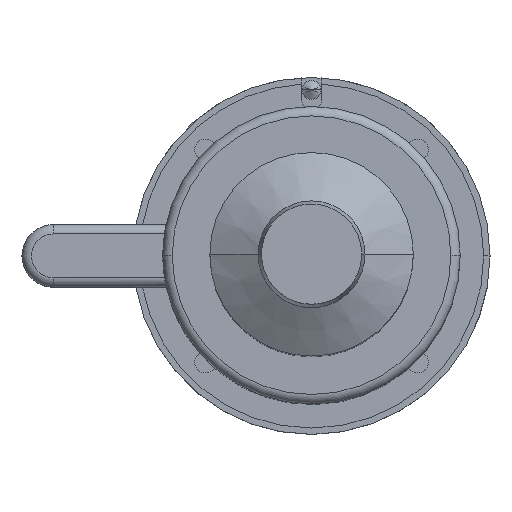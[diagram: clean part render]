
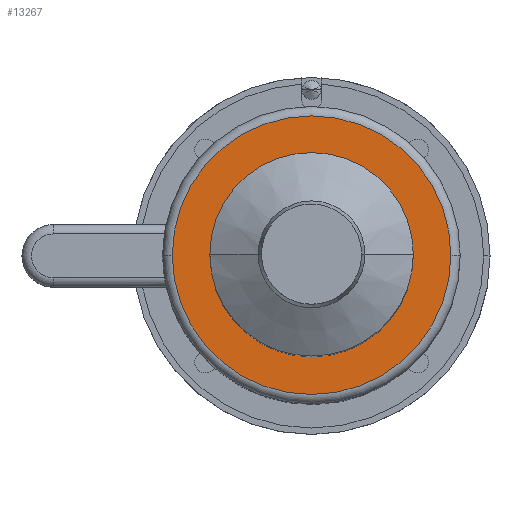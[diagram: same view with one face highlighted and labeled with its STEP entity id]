
A CAD part, top view. The second image highlights one B-rep face of the part: STEP entity #13267.
In plain terms, the highlighted planar face has unit normal (0, 0, 1).
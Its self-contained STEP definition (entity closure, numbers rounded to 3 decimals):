
#399 = ORIENTED_EDGE ( 'NONE', *, *, #14277, .T. ) ;
#600 = ORIENTED_EDGE ( 'NONE', *, *, #14117, .T. ) ;
#1129 = ORIENTED_EDGE ( 'NONE', *, *, #14114, .F. ) ;
#1164 = ORIENTED_EDGE ( 'NONE', *, *, #13904, .F. ) ;
#1460 = VERTEX_POINT ( 'NONE', #17766 ) ;
#1475 = VERTEX_POINT ( 'NONE', #17733 ) ;
#1482 = VERTEX_POINT ( 'NONE', #17717 ) ;
#1483 = VERTEX_POINT ( 'NONE', #17716 ) ;
#3002 = FACE_OUTER_BOUND ( 'NONE', #11063, .T. ) ;
#3049 = FACE_BOUND ( 'NONE', #11064, .T. ) ;
#4095 = AXIS2_PLACEMENT_3D ( 'NONE', #20980, #20787, #20801 ) ;
#4123 = AXIS2_PLACEMENT_3D ( 'NONE', #5571, #5573, #5572 ) ;
#4166 = AXIS2_PLACEMENT_3D ( 'NONE', #5240, #5220, #5219 ) ;
#4249 = AXIS2_PLACEMENT_3D ( 'NONE', #20473, #21116, #21202 ) ;
#4409 = AXIS2_PLACEMENT_3D ( 'NONE', #5179, #5180, #5175 ) ;
#5175 = DIRECTION ( 'NONE',  ( -1., 0., 0. ) ) ;
#5179 = CARTESIAN_POINT ( 'NONE',  ( 0., 0., 161. ) ) ;
#5180 = DIRECTION ( 'NONE',  ( 0., 0., -1. ) ) ;
#5219 = DIRECTION ( 'NONE',  ( -1., 0., 0. ) ) ;
#5220 = DIRECTION ( 'NONE',  ( 0., 0., -1. ) ) ;
#5240 = CARTESIAN_POINT ( 'NONE',  ( 0., 0., 161. ) ) ;
#5571 = CARTESIAN_POINT ( 'NONE',  ( 0., 0., 161. ) ) ;
#5572 = DIRECTION ( 'NONE',  ( -1., 0., 0. ) ) ;
#5573 = DIRECTION ( 'NONE',  ( 0., 0., -1. ) ) ;
#11063 = EDGE_LOOP ( 'NONE', ( #1164, #1129 ) ) ;
#11064 = EDGE_LOOP ( 'NONE', ( #600, #399 ) ) ;
#13267 = ADVANCED_FACE ( 'NONE', ( #3002, #3049 ), #20474, .F. ) ;
#13904 = EDGE_CURVE ( 'NONE', #1483, #1482, #20060, .T. ) ;
#14114 = EDGE_CURVE ( 'NONE', #1482, #1483, #19936, .T. ) ;
#14117 = EDGE_CURVE ( 'NONE', #1460, #1475, #19868, .T. ) ;
#14277 = EDGE_CURVE ( 'NONE', #1475, #1460, #20009, .T. ) ;
#17716 = CARTESIAN_POINT ( 'NONE',  ( -44.5, 0., 161. ) ) ;
#17717 = CARTESIAN_POINT ( 'NONE',  ( 44.5, 0., 161. ) ) ;
#17733 = CARTESIAN_POINT ( 'NONE',  ( 32.5, 0., 161. ) ) ;
#17766 = CARTESIAN_POINT ( 'NONE',  ( -32.5, 0., 161. ) ) ;
#19868 = CIRCLE ( 'NONE', #4409, 32.5 ) ;
#19936 = CIRCLE ( 'NONE', #4166, 44.5 ) ;
#20009 = CIRCLE ( 'NONE', #4123, 32.5 ) ;
#20060 = CIRCLE ( 'NONE', #4095, 44.5 ) ;
#20473 = CARTESIAN_POINT ( 'NONE',  ( 0., 0., 161. ) ) ;
#20474 = PLANE ( 'NONE',  #4249 ) ;
#20787 = DIRECTION ( 'NONE',  ( 0., 0., -1. ) ) ;
#20801 = DIRECTION ( 'NONE',  ( -1., 0., 0. ) ) ;
#20980 = CARTESIAN_POINT ( 'NONE',  ( 0., 0., 161. ) ) ;
#21116 = DIRECTION ( 'NONE',  ( 0., 0., -1. ) ) ;
#21202 = DIRECTION ( 'NONE',  ( -1., 0., 0. ) ) ;
